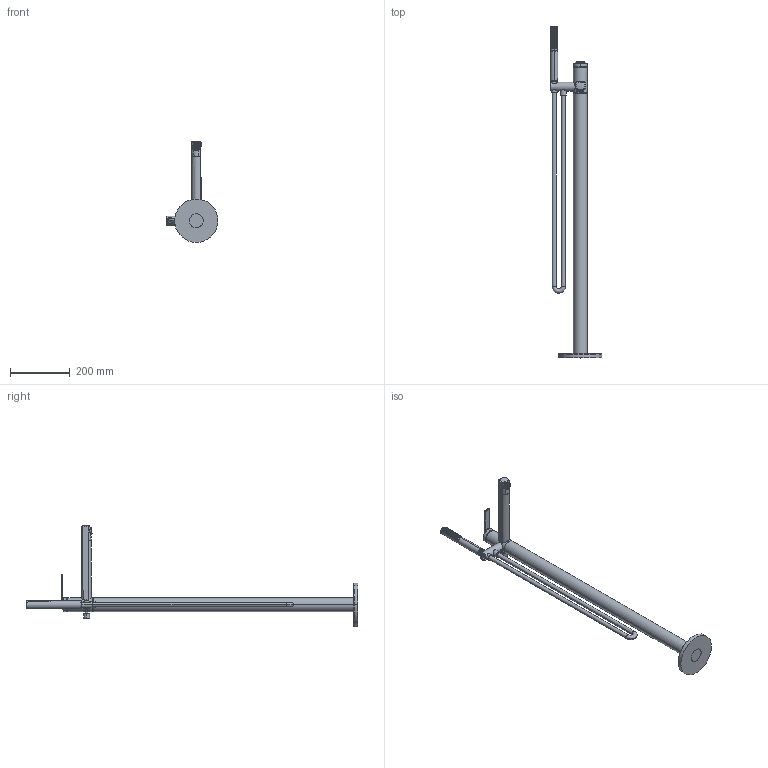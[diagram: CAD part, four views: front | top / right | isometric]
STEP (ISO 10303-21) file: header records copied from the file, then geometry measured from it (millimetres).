
FILE_DESCRIPTION((''),'2;1');
FILE_NAME('20661094','2019-06-04T',('LT980'),(''),'CREO PARAMETRIC BY PTC INC, 2016260','CREO PARAMETRIC BY PTC INC, 2016260','');
FILE_SCHEMA(('CONFIG_CONTROL_DESIGN'));
Products named in the file (1): 20661094
Bounding box: 174 x 1112.29 x 337.35 mm (x, y, z)
Volume: 2416591.4 mm3; surface area: 337975.7 mm2
Topology: 2 solids, 5 shells, 1299 faces, 3156 edges, 2018 vertices
Faces by surface type: cylinder 578, bspline 210, plane 194, torus 176, cone 130, sphere 11
Entity records: 84871 total; most frequent: CARTESIAN_POINT 56421, ORIENTED_EDGE 6304, DIRECTION 5111, EDGE_CURVE 3152, AXIS2_PLACEMENT_3D 2121, VERTEX_POINT 2018, EDGE_LOOP 1578, FACE_OUTER_BOUND 1299
